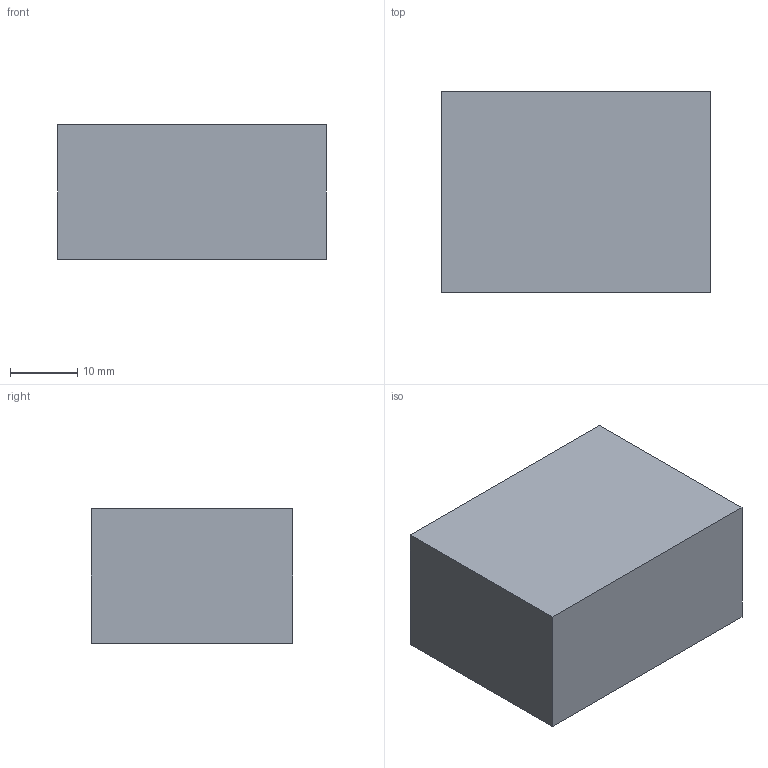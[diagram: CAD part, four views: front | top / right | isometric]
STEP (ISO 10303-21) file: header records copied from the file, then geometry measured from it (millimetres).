
FILE_DESCRIPTION(('box 40x30x20 mm'),'2;1');
FILE_NAME('box.step','2026-10-28T12:00:00',(''),(''),'cad_samples','','');
FILE_SCHEMA(('AUTOMOTIVE_DESIGN { 1 0 10303 214 1 1 1 1 }'));
Length unit declared in the file: millimetre
Products named in the file (1): box
Bounding box: 40 x 30 x 20 mm (x, y, z)
Volume: 24000 mm3; surface area: 5200 mm2
Topology: 1 solids, 1 shells, 6 faces, 12 edges, 8 vertices
Faces by surface type: plane 6
Entity records: 166 total; most frequent: CARTESIAN_POINT 27, DIRECTION 26, ORIENTED_EDGE 24, VECTOR 12, LINE 12, EDGE_CURVE 12, VERTEX_POINT 8, AXIS2_PLACEMENT_3D 7
